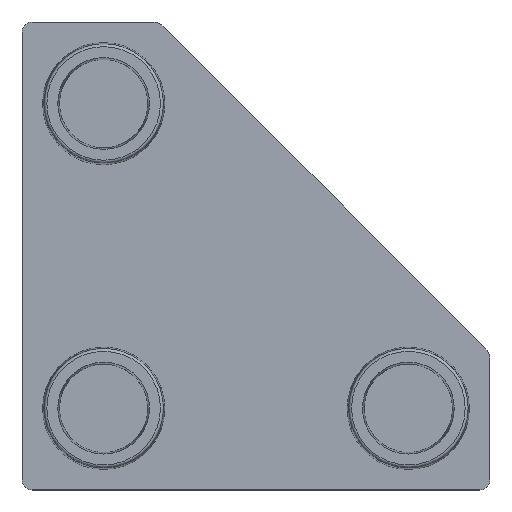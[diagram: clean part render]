
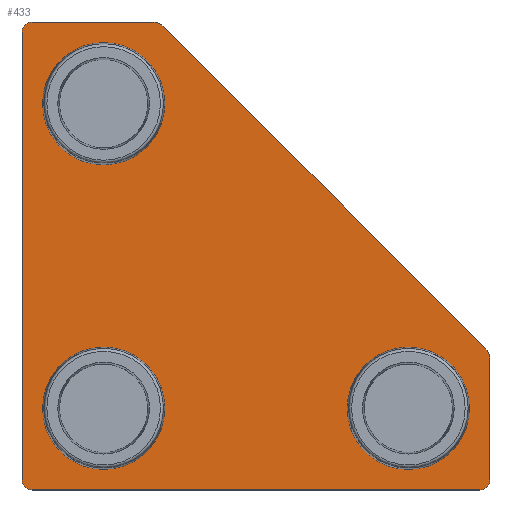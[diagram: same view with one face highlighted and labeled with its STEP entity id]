
A CAD part, top view. The second image highlights one B-rep face of the part: STEP entity #433.
In plain terms, the highlighted planar face has unit normal (0, 0, 1).
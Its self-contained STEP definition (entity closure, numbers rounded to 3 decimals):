
#101=CARTESIAN_POINT('',(20.525,-14.65,3.));
#102=VERTEX_POINT('',#101);
#103=CARTESIAN_POINT('',(14.65,-14.65,3.));
#104=DIRECTION('',(0.0,0.0,-1.0));
#105=DIRECTION('',(-1.0,0.0,0.0));
#106=AXIS2_PLACEMENT_3D('',#103,#104,#105);
#107=CIRCLE('',#106,5.875);
#108=EDGE_CURVE('',#102,#102,#107,.T.);
#169=CARTESIAN_POINT('',(-8.775,-14.65,3.));
#170=VERTEX_POINT('',#169);
#171=CARTESIAN_POINT('',(-14.65,-14.65,3.));
#172=DIRECTION('',(0.0,0.0,-1.0));
#173=DIRECTION('',(-1.0,0.0,0.0));
#174=AXIS2_PLACEMENT_3D('',#171,#172,#173);
#175=CIRCLE('',#174,5.875);
#176=EDGE_CURVE('',#170,#170,#175,.T.);
#237=CARTESIAN_POINT('',(-8.775,14.65,3.));
#238=VERTEX_POINT('',#237);
#239=CARTESIAN_POINT('',(-14.65,14.65,3.));
#240=DIRECTION('',(0.0,0.0,-1.0));
#241=DIRECTION('',(-1.0,0.0,0.0));
#242=AXIS2_PLACEMENT_3D('',#239,#240,#241);
#243=CIRCLE('',#242,5.875);
#244=EDGE_CURVE('',#238,#238,#243,.T.);
#332=CARTESIAN_POINT('',(-3.899,-3.899,3.));
#333=DIRECTION('',(0.0,0.0,1.0));
#334=DIRECTION('',(1.0,0.0,0.0));
#335=AXIS2_PLACEMENT_3D('',#332,#333,#334);
#336=PLANE('',#335);
#337=CARTESIAN_POINT('',(-9.941,22.5,3.));
#338=VERTEX_POINT('',#337);
#339=CARTESIAN_POINT('',(-8.881,22.061,3.));
#340=VERTEX_POINT('',#339);
#341=CARTESIAN_POINT('',(-9.941,21.0,3.));
#342=DIRECTION('',(0.0,0.0,-1.));
#343=DIRECTION('',(0.383,0.924,0.0));
#344=AXIS2_PLACEMENT_3D('',#341,#342,#343);
#345=CIRCLE('',#344,1.5);
#346=EDGE_CURVE('',#338,#340,#345,.T.);
#347=ORIENTED_EDGE('',*,*,#346,.F.);
#348=CARTESIAN_POINT('',(-21.5,22.5,3.));
#349=VERTEX_POINT('',#348);
#350=CARTESIAN_POINT('',(-21.5,22.5,3.));
#351=DIRECTION('',(1.0,0.0,0.0));
#352=VECTOR('',#351,11.559);
#353=LINE('',#350,#352);
#354=EDGE_CURVE('',#349,#338,#353,.T.);
#355=ORIENTED_EDGE('',*,*,#354,.F.);
#356=CARTESIAN_POINT('',(-22.5,21.5,3.));
#357=VERTEX_POINT('',#356);
#358=CARTESIAN_POINT('',(-21.5,21.5,3.));
#359=DIRECTION('',(0.0,0.0,-1.));
#360=DIRECTION('',(-0.707,0.707,0.0));
#361=AXIS2_PLACEMENT_3D('',#358,#359,#360);
#362=CIRCLE('',#361,1.);
#363=EDGE_CURVE('',#357,#349,#362,.T.);
#364=ORIENTED_EDGE('',*,*,#363,.F.);
#365=CARTESIAN_POINT('',(-22.5,-21.5,3.));
#366=VERTEX_POINT('',#365);
#367=CARTESIAN_POINT('',(-22.5,-21.5,3.));
#368=DIRECTION('',(0.0,1.0,0.0));
#369=VECTOR('',#368,43.0);
#370=LINE('',#367,#369);
#371=EDGE_CURVE('',#366,#357,#370,.T.);
#372=ORIENTED_EDGE('',*,*,#371,.F.);
#373=CARTESIAN_POINT('',(-21.5,-22.5,3.));
#374=VERTEX_POINT('',#373);
#375=CARTESIAN_POINT('',(-21.5,-21.5,3.));
#376=DIRECTION('',(0.0,0.0,-1.0));
#377=DIRECTION('',(-0.707,-0.707,0.0));
#378=AXIS2_PLACEMENT_3D('',#375,#376,#377);
#379=CIRCLE('',#378,1.);
#380=EDGE_CURVE('',#374,#366,#379,.T.);
#381=ORIENTED_EDGE('',*,*,#380,.F.);
#382=CARTESIAN_POINT('',(21.5,-22.5,3.));
#383=VERTEX_POINT('',#382);
#384=CARTESIAN_POINT('',(21.5,-22.5,3.));
#385=DIRECTION('',(-1.0,0.0,0.0));
#386=VECTOR('',#385,43.);
#387=LINE('',#384,#386);
#388=EDGE_CURVE('',#383,#374,#387,.T.);
#389=ORIENTED_EDGE('',*,*,#388,.F.);
#390=CARTESIAN_POINT('',(22.5,-21.5,3.));
#391=VERTEX_POINT('',#390);
#392=CARTESIAN_POINT('',(21.5,-21.5,3.));
#393=DIRECTION('',(0.0,0.0,-1.0));
#394=DIRECTION('',(0.707,-0.707,0.0));
#395=AXIS2_PLACEMENT_3D('',#392,#393,#394);
#396=CIRCLE('',#395,1.);
#397=EDGE_CURVE('',#391,#383,#396,.T.);
#398=ORIENTED_EDGE('',*,*,#397,.F.);
#399=CARTESIAN_POINT('',(22.5,-9.941,3.));
#400=VERTEX_POINT('',#399);
#401=CARTESIAN_POINT('',(22.5,-9.941,3.));
#402=DIRECTION('',(0.0,-1.0,0.0));
#403=VECTOR('',#402,11.559);
#404=LINE('',#401,#403);
#405=EDGE_CURVE('',#400,#391,#404,.T.);
#406=ORIENTED_EDGE('',*,*,#405,.F.);
#407=CARTESIAN_POINT('',(22.061,-8.881,3.));
#408=VERTEX_POINT('',#407);
#409=CARTESIAN_POINT('',(21.,-9.941,3.));
#410=DIRECTION('',(0.0,0.0,-1.));
#411=DIRECTION('',(0.924,0.383,0.0));
#412=AXIS2_PLACEMENT_3D('',#409,#410,#411);
#413=CIRCLE('',#412,1.5);
#414=EDGE_CURVE('',#408,#400,#413,.T.);
#415=ORIENTED_EDGE('',*,*,#414,.F.);
#416=CARTESIAN_POINT('',(-8.881,22.061,3.));
#417=DIRECTION('',(0.707,-0.707,0.0));
#418=VECTOR('',#417,43.758);
#419=LINE('',#416,#418);
#420=EDGE_CURVE('',#340,#408,#419,.T.);
#421=ORIENTED_EDGE('',*,*,#420,.F.);
#422=EDGE_LOOP('',(#347,#355,#364,#372,#381,#389,#398,#406,#415,#421));
#423=FACE_OUTER_BOUND('',#422,.T.);
#424=ORIENTED_EDGE('',*,*,#108,.T.);
#425=EDGE_LOOP('',(#424));
#426=FACE_BOUND('',#425,.T.);
#427=ORIENTED_EDGE('',*,*,#176,.T.);
#428=EDGE_LOOP('',(#427));
#429=FACE_BOUND('',#428,.T.);
#430=ORIENTED_EDGE('',*,*,#244,.T.);
#431=EDGE_LOOP('',(#430));
#432=FACE_BOUND('',#431,.T.);
#433=ADVANCED_FACE('',(#423,#426,#429,#432),#336,.T.);
